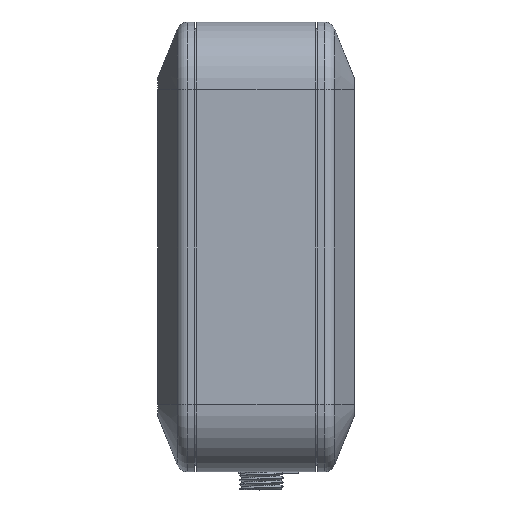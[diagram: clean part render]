
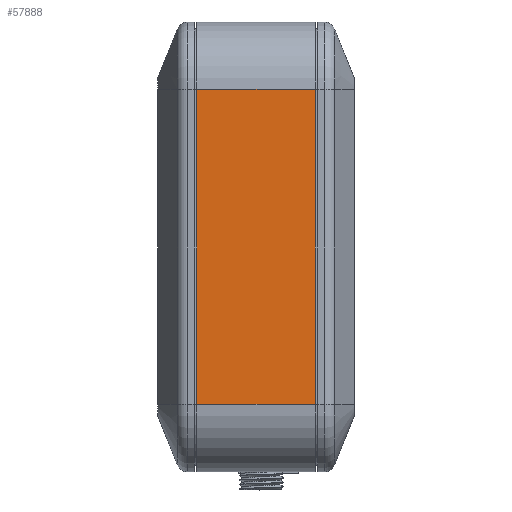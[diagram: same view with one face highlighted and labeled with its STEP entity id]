
A CAD part, left-side view. The second image highlights one B-rep face of the part: STEP entity #57888.
In plain terms, the highlighted planar face has unit normal (-1, 0, 0).
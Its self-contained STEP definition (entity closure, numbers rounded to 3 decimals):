
#1791=DIRECTION('',(0.,1.,0.));
#1792=VECTOR('',#1791,21.);
#1793=CARTESIAN_POINT('',(-78.5,-3.,-18.225));
#1794=LINE('',#1793,#1792);
#21417=DIRECTION('',(0.,0.,1.));
#21418=VECTOR('',#21417,56.);
#21419=CARTESIAN_POINT('',(-78.5,-3.,-18.225));
#21420=LINE('',#21419,#21418);
#21421=DIRECTION('',(0.,0.,-1.));
#21422=VECTOR('',#21421,56.);
#21423=CARTESIAN_POINT('',(-78.5,18.,37.775));
#21424=LINE('',#21423,#21422);
#21429=DIRECTION('',(0.,-1.,0.));
#21430=VECTOR('',#21429,21.);
#21431=CARTESIAN_POINT('',(-78.5,18.,37.775));
#21432=LINE('',#21431,#21430);
#21767=CARTESIAN_POINT('',(-78.5,18.,37.775));
#21768=CARTESIAN_POINT('',(-78.5,-3.,37.775));
#21769=VERTEX_POINT('',#21767);
#21770=VERTEX_POINT('',#21768);
#21775=CARTESIAN_POINT('',(-78.5,18.,-18.225));
#21776=VERTEX_POINT('',#21775);
#21777=CARTESIAN_POINT('',(-78.5,-3.,-18.225));
#21778=VERTEX_POINT('',#21777);
#57876=CARTESIAN_POINT('',(-78.5,-10.,49.775));
#57877=DIRECTION('',(-1.,0.,0.));
#57878=DIRECTION('',(0.,0.,-1.));
#57879=AXIS2_PLACEMENT_3D('',#57876,#57877,#57878);
#57880=PLANE('',#57879);
#57882=ORIENTED_EDGE('',*,*,#57881,.T.);
#57883=ORIENTED_EDGE('',*,*,#30302,.F.);
#57884=ORIENTED_EDGE('',*,*,#30286,.T.);
#57885=ORIENTED_EDGE('',*,*,#30255,.F.);
#57886=EDGE_LOOP('',(#57882,#57883,#57884,#57885));
#57887=FACE_OUTER_BOUND('',#57886,.F.);
#57888=ADVANCED_FACE('',(#57887),#57880,.T.);
#30255=EDGE_CURVE('',#21769,#21776,#21424,.T.);
#30286=EDGE_CURVE('',#21778,#21776,#1794,.T.);
#30302=EDGE_CURVE('',#21778,#21770,#21420,.T.);
#57881=EDGE_CURVE('',#21769,#21770,#21432,.T.);
